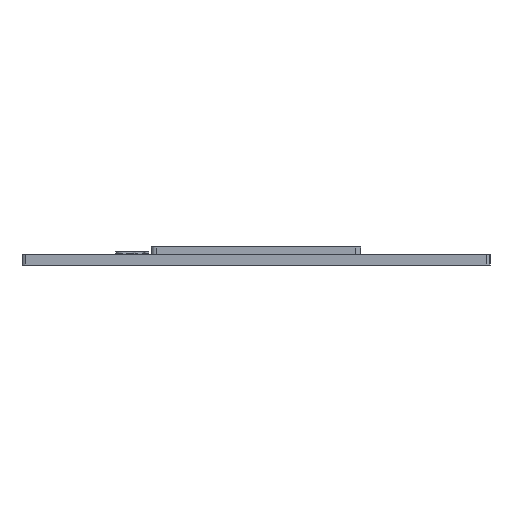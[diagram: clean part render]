
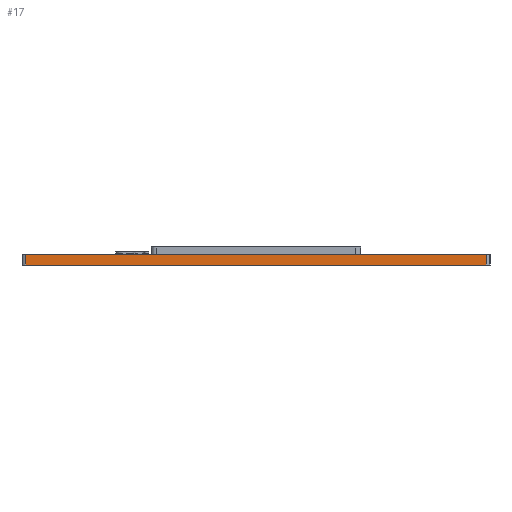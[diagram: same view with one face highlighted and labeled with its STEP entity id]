
A CAD part, left-side view. The second image highlights one B-rep face of the part: STEP entity #17.
In plain terms, the highlighted planar face has unit normal (-1, 0, 0).
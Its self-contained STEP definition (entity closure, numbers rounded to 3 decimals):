
#17 = ADVANCED_FACE('',(#18),#32,.F.);
#18 = FACE_BOUND('',#19,.F.);
#19 = EDGE_LOOP('',(#20,#55,#83,#111));
#20 = ORIENTED_EDGE('',*,*,#21,.F.);
#21 = EDGE_CURVE('',#22,#24,#26,.T.);
#22 = VERTEX_POINT('',#23);
#23 = CARTESIAN_POINT('',(0.,3.6,2.2));
#24 = VERTEX_POINT('',#25);
#25 = CARTESIAN_POINT('',(0.,100.4,2.2));
#26 = SURFACE_CURVE('',#27,(#31,#43),.PCURVE_S1.);
#27 = LINE('',#28,#29);
#28 = CARTESIAN_POINT('',(0.,2.8,2.2));
#29 = VECTOR('',#30,1.);
#30 = DIRECTION('',(-0.,1.,0.));
#31 = PCURVE('',#32,#37);
#32 = PLANE('',#33);
#33 = AXIS2_PLACEMENT_3D('',#34,#35,#36);
#34 = CARTESIAN_POINT('',(0.,2.8,0.));
#35 = DIRECTION('',(1.,0.,-0.));
#36 = DIRECTION('',(0.,0.,1.));
#37 = DEFINITIONAL_REPRESENTATION('',(#38),#42);
#38 = LINE('',#39,#40);
#39 = CARTESIAN_POINT('',(2.2,0.));
#40 = VECTOR('',#41,1.);
#41 = DIRECTION('',(0.,-1.));
#42 = ( GEOMETRIC_REPRESENTATION_CONTEXT(2) 
PARAMETRIC_REPRESENTATION_CONTEXT() REPRESENTATION_CONTEXT('2D SPACE',''
  ) );
#43 = PCURVE('',#44,#49);
#44 = PLANE('',#45);
#45 = AXIS2_PLACEMENT_3D('',#46,#47,#48);
#46 = CARTESIAN_POINT('',(0.,2.8,2.2));
#47 = DIRECTION('',(0.,0.,1.));
#48 = DIRECTION('',(1.,0.,-0.));
#49 = DEFINITIONAL_REPRESENTATION('',(#50),#54);
#50 = LINE('',#51,#52);
#51 = CARTESIAN_POINT('',(0.,0.));
#52 = VECTOR('',#53,1.);
#53 = DIRECTION('',(0.,1.));
#54 = ( GEOMETRIC_REPRESENTATION_CONTEXT(2) 
PARAMETRIC_REPRESENTATION_CONTEXT() REPRESENTATION_CONTEXT('2D SPACE',''
  ) );
#55 = ORIENTED_EDGE('',*,*,#56,.F.);
#56 = EDGE_CURVE('',#57,#22,#59,.T.);
#57 = VERTEX_POINT('',#58);
#58 = CARTESIAN_POINT('',(0.,3.6,0.));
#59 = SURFACE_CURVE('',#60,(#64,#71),.PCURVE_S1.);
#60 = LINE('',#61,#62);
#61 = CARTESIAN_POINT('',(0.,3.6,0.));
#62 = VECTOR('',#63,1.);
#63 = DIRECTION('',(0.,0.,1.));
#64 = PCURVE('',#32,#65);
#65 = DEFINITIONAL_REPRESENTATION('',(#66),#70);
#66 = LINE('',#67,#68);
#67 = CARTESIAN_POINT('',(0.,-0.8));
#68 = VECTOR('',#69,1.);
#69 = DIRECTION('',(1.,0.));
#70 = ( GEOMETRIC_REPRESENTATION_CONTEXT(2) 
PARAMETRIC_REPRESENTATION_CONTEXT() REPRESENTATION_CONTEXT('2D SPACE',''
  ) );
#71 = PCURVE('',#72,#77);
#72 = CYLINDRICAL_SURFACE('',#73,0.8);
#73 = AXIS2_PLACEMENT_3D('',#74,#75,#76);
#74 = CARTESIAN_POINT('',(0.8,3.6,0.));
#75 = DIRECTION('',(0.,0.,1.));
#76 = DIRECTION('',(-1.,-0.,0.));
#77 = DEFINITIONAL_REPRESENTATION('',(#78),#82);
#78 = LINE('',#79,#80);
#79 = CARTESIAN_POINT('',(0.,0.));
#80 = VECTOR('',#81,1.);
#81 = DIRECTION('',(0.,1.));
#82 = ( GEOMETRIC_REPRESENTATION_CONTEXT(2) 
PARAMETRIC_REPRESENTATION_CONTEXT() REPRESENTATION_CONTEXT('2D SPACE',''
  ) );
#83 = ORIENTED_EDGE('',*,*,#84,.T.);
#84 = EDGE_CURVE('',#57,#85,#87,.T.);
#85 = VERTEX_POINT('',#86);
#86 = CARTESIAN_POINT('',(0.,100.4,0.));
#87 = SURFACE_CURVE('',#88,(#92,#99),.PCURVE_S1.);
#88 = LINE('',#89,#90);
#89 = CARTESIAN_POINT('',(0.,2.8,0.));
#90 = VECTOR('',#91,1.);
#91 = DIRECTION('',(-0.,1.,0.));
#92 = PCURVE('',#32,#93);
#93 = DEFINITIONAL_REPRESENTATION('',(#94),#98);
#94 = LINE('',#95,#96);
#95 = CARTESIAN_POINT('',(0.,0.));
#96 = VECTOR('',#97,1.);
#97 = DIRECTION('',(0.,-1.));
#98 = ( GEOMETRIC_REPRESENTATION_CONTEXT(2) 
PARAMETRIC_REPRESENTATION_CONTEXT() REPRESENTATION_CONTEXT('2D SPACE',''
  ) );
#99 = PCURVE('',#100,#105);
#100 = PLANE('',#101);
#101 = AXIS2_PLACEMENT_3D('',#102,#103,#104);
#102 = CARTESIAN_POINT('',(0.,2.8,0.));
#103 = DIRECTION('',(0.,0.,1.));
#104 = DIRECTION('',(1.,0.,-0.));
#105 = DEFINITIONAL_REPRESENTATION('',(#106),#110);
#106 = LINE('',#107,#108);
#107 = CARTESIAN_POINT('',(0.,0.));
#108 = VECTOR('',#109,1.);
#109 = DIRECTION('',(0.,1.));
#110 = ( GEOMETRIC_REPRESENTATION_CONTEXT(2) 
PARAMETRIC_REPRESENTATION_CONTEXT() REPRESENTATION_CONTEXT('2D SPACE',''
  ) );
#111 = ORIENTED_EDGE('',*,*,#112,.T.);
#112 = EDGE_CURVE('',#85,#24,#113,.T.);
#113 = SURFACE_CURVE('',#114,(#118,#125),.PCURVE_S1.);
#114 = LINE('',#115,#116);
#115 = CARTESIAN_POINT('',(0.,100.4,0.));
#116 = VECTOR('',#117,1.);
#117 = DIRECTION('',(0.,0.,1.));
#118 = PCURVE('',#32,#119);
#119 = DEFINITIONAL_REPRESENTATION('',(#120),#124);
#120 = LINE('',#121,#122);
#121 = CARTESIAN_POINT('',(0.,-97.6));
#122 = VECTOR('',#123,1.);
#123 = DIRECTION('',(1.,0.));
#124 = ( GEOMETRIC_REPRESENTATION_CONTEXT(2) 
PARAMETRIC_REPRESENTATION_CONTEXT() REPRESENTATION_CONTEXT('2D SPACE',''
  ) );
#125 = PCURVE('',#126,#131);
#126 = CYLINDRICAL_SURFACE('',#127,0.8);
#127 = AXIS2_PLACEMENT_3D('',#128,#129,#130);
#128 = CARTESIAN_POINT('',(0.8,100.4,0.));
#129 = DIRECTION('',(0.,0.,1.));
#130 = DIRECTION('',(-1.,-0.,0.));
#131 = DEFINITIONAL_REPRESENTATION('',(#132),#136);
#132 = LINE('',#133,#134);
#133 = CARTESIAN_POINT('',(-0.,0.));
#134 = VECTOR('',#135,1.);
#135 = DIRECTION('',(-0.,1.));
#136 = ( GEOMETRIC_REPRESENTATION_CONTEXT(2) 
PARAMETRIC_REPRESENTATION_CONTEXT() REPRESENTATION_CONTEXT('2D SPACE',''
  ) );
